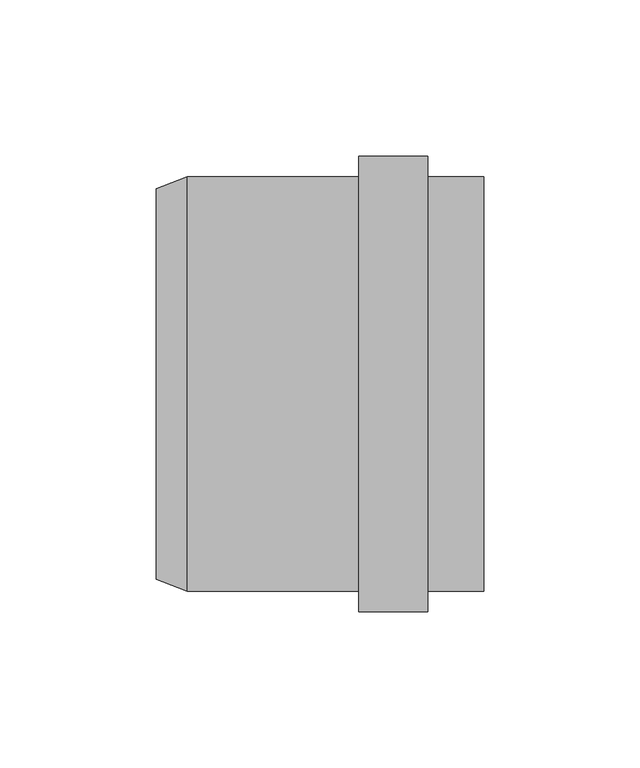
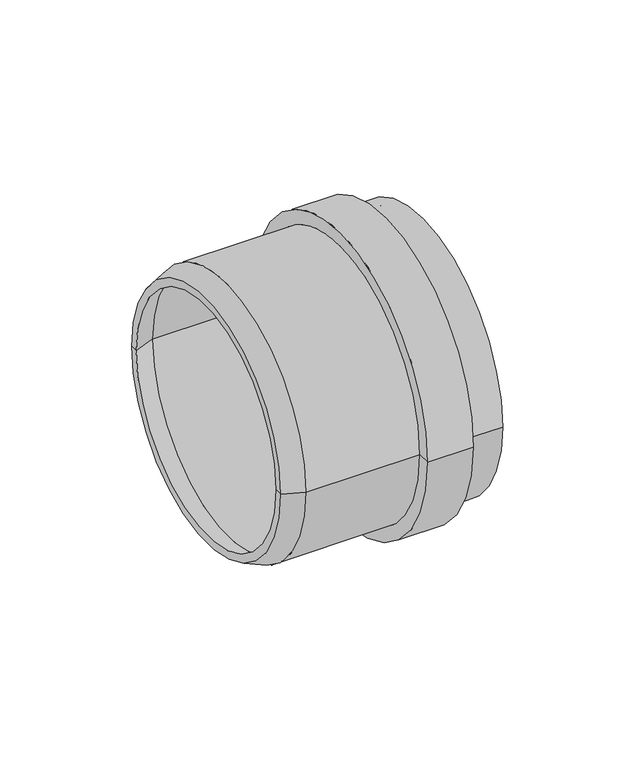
"""IFC4 building model written with IfcOpenShell, lengths in millimetres: pipe fitting geometry, OSMA_KG2000_Hrdlo : Hrdlo."""

import ifcopenshell
import ifcopenshell.guid

model = None  # the IFC model being written
_history = None  # IfcOwnerHistory: only IFC2X3 demands one
_inside = {}  # id of a spatial element -> (the spatial element, [elements in it])
_under = {}  # id of a project, library or spatial element -> (it, [spatial elements below it])
_declared = {}  # id of a project -> (the project, [libraries it declares])
_typed = {}  # id of a type object -> (the type object, [elements of that type])
_made_of = {}  # id of a material, layer set ... -> (it, [elements and type objects made of it])


def new_model(schema):
    """Start an empty IFC model of exactly this schema.

    Asked for "IFC4X3", IfcOpenShell would pick the latest addendum, in which some entities
    have other attributes; the version numbers below select the first issue.
    IFC2X3 requires an IfcOwnerHistory on every rooted entity: one is made here for all.
    """
    global model, _history
    if schema == "IFC4X3":
        model = ifcopenshell.file(schema_version=(4, 3, 0, 0))
    else:
        model = ifcopenshell.file(schema=schema)
    _inside.clear()
    _under.clear()
    _declared.clear()
    _typed.clear()
    _made_of.clear()
    _history = None
    if model.schema == "IFC2X3":
        org = make("IfcOrganization", Name="unknown")
        user = make(
            "IfcPersonAndOrganization",
            ThePerson=make("IfcPerson", FamilyName="unknown"),
            TheOrganization=org,
        )
        app = make(
            "IfcApplication",
            ApplicationDeveloper=org,
            Version="unknown",
            ApplicationFullName="unknown",
            ApplicationIdentifier="unknown",
        )
        _history = make(
            "IfcOwnerHistory",
            OwningUser=user,
            OwningApplication=app,
            ChangeAction="ADDED",
            CreationDate=0,
        )
    return model


def make(cls, **values):
    """One entity of the class cls with the attributes given. An attribute that is None is left unset."""
    return model.create_entity(
        cls, **{name: value for name, value in values.items() if value is not None}
    )


def rooted(cls, **values):
    """An entity with a GlobalId (a new one), such as an element, a storey or a relation."""
    return make(cls, GlobalId=ifcopenshell.guid.new(), OwnerHistory=_history, **values)


def si_unit(unit_type, name, prefix=None):
    """IfcSIUnit, for example si_unit("LENGTHUNIT", "METRE", prefix="MILLI")."""
    return make("IfcSIUnit", UnitType=unit_type, Prefix=prefix, Name=name)


def assignment(units):
    """IfcUnitAssignment: the units of a project."""
    return None if units is None else make("IfcUnitAssignment", Units=units)


def point(xyz):
    """IfcCartesianPoint."""
    return None if xyz is None else make("IfcCartesianPoint", Coordinates=xyz)


def direction(xyz):
    """IfcDirection."""
    return None if xyz is None else make("IfcDirection", DirectionRatios=xyz)


def frame(location, z_axis=None, x_axis=None):
    """IfcAxis2Placement3D, a coordinate frame: its origin and axes. An axis left out is left unset."""
    return make(
        "IfcAxis2Placement3D",
        Location=point(location),
        Axis=direction(z_axis),
        RefDirection=direction(x_axis),
    )


def origin():
    """The frame at (0, 0, 0) with its axes left unset."""
    return frame((0.0, 0.0, 0.0))


def place(relative_to, where):
    """IfcLocalPlacement: puts the frame where relative to a parent placement (None: the world)."""
    return make(
        "IfcLocalPlacement", PlacementRelTo=relative_to, RelativePlacement=where
    )


def context(
    kind, dimensions, precision=None, world=None, true_north=None, identifier=None
):
    """IfcGeometricRepresentationContext, for example the 3D "Model" context."""
    return make(
        "IfcGeometricRepresentationContext",
        ContextIdentifier=identifier,
        ContextType=kind,
        CoordinateSpaceDimension=dimensions,
        Precision=precision,
        WorldCoordinateSystem=world,
        TrueNorth=true_north,
    )


def project(units=None, contexts=None):
    """IfcProject with its units and contexts."""
    return rooted(
        "IfcProject",
        Name="project",
        RepresentationContexts=contexts,
        UnitsInContext=assignment(units),
    )


def spatial(cls, under=None, at=None, **own):
    """A site, building, storey or space (cls), placed at a placement, below another one or the project."""
    s = rooted(cls, ObjectPlacement=at, **own)
    if under is not None:
        _under.setdefault(under.id(), (under, []))[1].append(s)
    return s


def polyline(points):
    """IfcPolyline through the points."""
    return make("IfcPolyline", Points=[point(p) for p in points])


def circle_curve(where, radius):
    """IfcCircle in the frame where."""
    return make("IfcCircle", Position=where, Radius=radius)


def shape(context_of_items, identifier, shape_type, items):
    """IfcShapeRepresentation: the items that make up one representation, for example the "Body"."""
    return make(
        "IfcShapeRepresentation",
        ContextOfItems=context_of_items,
        RepresentationIdentifier=identifier,
        RepresentationType=shape_type,
        Items=items,
    )


def source(mapping_origin, context_of_items, identifier, shape_type, items):
    """IfcRepresentationMap: a shape defined once, which mapped items show again and again."""
    return make(
        "IfcRepresentationMap",
        MappingOrigin=mapping_origin,
        MappedRepresentation=shape(context_of_items, identifier, shape_type, items),
    )


def transform(
    local_origin,
    x_axis=None,
    y_axis=None,
    z_axis=None,
    scale=None,
    scale2=None,
    scale3=None,
    uniform=True,
):
    """IfcCartesianTransformationOperator3D, or its non-uniform kind. x_axis, y_axis, z_axis: its Axis1, 2, 3."""
    if uniform:
        return make(
            "IfcCartesianTransformationOperator3D",
            Axis1=direction(x_axis),
            Axis2=direction(y_axis),
            LocalOrigin=point(local_origin),
            Scale=scale,
            Axis3=direction(z_axis),
        )
    return make(
        "IfcCartesianTransformationOperator3DnonUniform",
        Axis1=direction(x_axis),
        Axis2=direction(y_axis),
        LocalOrigin=point(local_origin),
        Scale=scale,
        Axis3=direction(z_axis),
        Scale2=scale2,
        Scale3=scale3,
    )


def mapped(mapping_source, mapping_target):
    """IfcMappedItem: shows the shape of a source again, moved by a transform."""
    return make(
        "IfcMappedItem", MappingSource=mapping_source, MappingTarget=mapping_target
    )


def made_of(thing, what):
    """Note that an element or type object is made of a material, layer set ...; save() writes the relation."""
    if what is not None:
        _made_of.setdefault(what.id(), (what, []))[1].append(thing)
    return thing


def element(
    cls,
    number,
    at=None,
    inside=None,
    cuts=None,
    type_object=None,
    material=None,
    context=None,
    identifier="Body",
    shape_type=None,
    held_by="IfcProductDefinitionShape",
    body=None,
    shapes=None,
    **own,
):
    """One element of the class cls, such as IfcWall. Its Tag is "e" and its number.

    at: its placement. inside: the storey or other place that contains it. cuts: it is an
    opening in that element (IfcRelVoidsElement). A single representation is given by context,
    identifier, shape_type and body (its items); several are given by shapes. held_by: the class
    of the entity that holds the representations. save() writes the other relations.
    """
    e = rooted(cls, Tag="e%d" % number, ObjectPlacement=at, **own)
    if body is not None:
        shapes = [shape(context, identifier, shape_type, body)]
    if shapes is not None:
        e.Representation = make(held_by, Representations=shapes)
    if inside is not None:
        _inside.setdefault(inside.id(), (inside, []))[1].append(e)
    if cuts is not None:
        rooted(
            "IfcRelVoidsElement", RelatingBuildingElement=cuts, RelatedOpeningElement=e
        )
    if type_object is not None:
        _typed.setdefault(type_object.id(), (type_object, []))[1].append(e)
    return made_of(e, material)


def aggregate(whole, parts):
    """IfcRelAggregates: a whole, such as a stair, and the parts it consists of."""
    return rooted("IfcRelAggregates", RelatingObject=whole, RelatedObjects=parts)


def save(model, path):
    """Write the relations noted so far, then the file.

    IfcRelAggregates (storeys below a building ...), IfcRelContainedInSpatialStructure (elements
    in a storey), IfcRelDefinesByType, IfcRelAssociatesMaterial and IfcRelDeclares: one each for
    every whole, place, type object, material and project.
    """
    for whole, parts in _under.values():
        aggregate(whole, parts)
    for where, things in _inside.values():
        rooted(
            "IfcRelContainedInSpatialStructure",
            RelatedElements=things,
            RelatingStructure=where,
        )
    for kind, things in _typed.values():
        rooted("IfcRelDefinesByType", RelatedObjects=things, RelatingType=kind)
    for what, things in _made_of.values():
        rooted("IfcRelAssociatesMaterial", RelatedObjects=things, RelatingMaterial=what)
    for by, libraries in _declared.values():
        rooted("IfcRelDeclares", RelatingContext=by, RelatedDefinitions=libraries)
    model.write(path)


def plane_surface(at):
    """IfcPlane: the flat surface through the origin of the frame at, square to its z axis."""
    return make("IfcPlane", Position=at)


def cylinder_surface(at, radius):
    """IfcCylindricalSurface: all points at the distance radius from the z axis of the frame at."""
    return make("IfcCylindricalSurface", Position=at, Radius=radius)


def revolved_surface(curve, axis_point, axis_direction):
    """IfcSurfaceOfRevolution: the curve turned about the line through axis_point along axis_direction."""
    return make(
        "IfcSurfaceOfRevolution",
        SweptCurve=make("IfcArbitraryOpenProfileDef", ProfileType="CURVE", Curve=curve),
        AxisPosition=make("IfcAxis1Placement", Location=point(axis_point), Axis=direction(axis_direction)),
    )


def advanced_brep(points, edges, surfaces, faces):
    """IfcAdvancedBrep: a solid bounded by faces that lie on surfaces and meet in shared edges.

    An edge is (start, end): straight between two places in points (the first is 0);
    or (start, end, curve); or (start, end, curve, False) where it runs against its curve.
    A face is (place in surfaces, loops), or (place, loops, False) where it looks against
    its surface's normal. A loop lists edges by number (the first is 1), with a minus sign
    where the edge is run from its end to its start. The first loop is the outer one.
    """
    corners = [point(p) for p in points]
    vertices = [make("IfcVertexPoint", VertexGeometry=c) for c in corners]
    made = []
    for start, end, *more in edges:
        made.append(
            make(
                "IfcEdgeCurve",
                EdgeStart=vertices[start],
                EdgeEnd=vertices[end],
                EdgeGeometry=more[0] if more else make("IfcPolyline", Points=[corners[start], corners[end]]),
                SameSense=more[1] if len(more) > 1 else True,
            )
        )
    hull = []
    for where, loops, *sense in faces:
        bounds = []
        for j, loop in enumerate(loops):
            ring = [make("IfcOrientedEdge", EdgeElement=made[abs(k) - 1], Orientation=k > 0) for k in loop]
            bounds.append(
                make(
                    "IfcFaceOuterBound" if j == 0 else "IfcFaceBound",
                    Bound=make("IfcEdgeLoop", EdgeList=ring),
                    Orientation=True,
                )
            )
        hull.append(make("IfcAdvancedFace", Bounds=bounds, FaceSurface=surfaces[where], SameSense=sense[0] if sense else True))
    return make("IfcAdvancedBrep", Outer=make("IfcClosedShell", CfsFaces=hull))


def pipe_fitting_8769c573(model_context):
    return source(origin(), model_context, "Body", "AdvancedBrep", [
        advanced_brep(
        [(60.0, -73.0, 0.0), (60.0, 73.0, 0.0), (82.0, 73.0, 0.0), (82.0, -73.0, 0.0), (60.0, -66.4, 0.0), (60.0, 66.4, 0.0), (5.0, -66.4, 0.0), (5.0, 66.4, 0.0), (-5.0, -62.5, 0.0), (-5.0, 62.5, 0.0), (-5.0, -58.6, 0.0), (-5.0, 58.6, 0.0), (5.0, -62.5, 0.0), (5.0, 62.5, 0.0), (100.0, -62.5, 0.0), (100.0, 62.5, 0.0), (100.0, -66.4, 0.0), (100.0, 66.4, 0.0), (82.0, -66.4, 0.0), (82.0, 66.4, 0.0)],
        [
            (0, 1, circle_curve(frame((60.0, 0.0, 0.0), z_axis=(1.0, 0.0, 0.0), x_axis=(0.0, 1.0, 0.0)), 73.0)),
            (1, 2),
            (2, 3, circle_curve(frame((82.0, 0.0, 0.0), z_axis=(-1.0, 0.0, 0.0), x_axis=(0.0, 1.0, 0.0)), 73.0)),
            (3, 0),
            (1, 0, circle_curve(frame((60.0, 0.0, 0.0), z_axis=(1.0, 0.0, 0.0), x_axis=(0.0, 1.0, 0.0)), 73.0)),
            (3, 2, circle_curve(frame((82.0, 0.0, 0.0), z_axis=(-1.0, 0.0, 0.0), x_axis=(0.0, 1.0, 0.0)), 73.0)),
            (4, 5, circle_curve(frame((60.0, 0.0, 0.0), z_axis=(1.0, 0.0, 0.0), x_axis=(0.0, 1.0, 0.0)), 66.4)),
            (5, 1),
            (0, 4),
            (5, 4, circle_curve(frame((60.0, 0.0, 0.0), z_axis=(1.0, 0.0, 0.0), x_axis=(0.0, 1.0, 0.0)), 66.4)),
            (6, 7, circle_curve(frame((5.0, 0.0, 0.0), z_axis=(1.0, 0.0, 0.0), x_axis=(0.0, 1.0, 0.0)), 66.4)),
            (7, 5),
            (4, 6),
            (7, 6, circle_curve(frame((5.0, 0.0, 0.0), z_axis=(1.0, 0.0, 0.0), x_axis=(0.0, 1.0, 0.0)), 66.4)),
            (8, 9, circle_curve(frame((-5.0, 0.0, 0.0), z_axis=(1.0, 0.0, 0.0), x_axis=(0.0, 1.0, 0.0)), 62.5)),
            (9, 7),
            (6, 8),
            (9, 8, circle_curve(frame((-5.0, 0.0, 0.0), z_axis=(1.0, 0.0, 0.0), x_axis=(0.0, 1.0, 0.0)), 62.5)),
            (10, 11, circle_curve(frame((-5.0, 0.0, 0.0), z_axis=(1.0, 0.0, 0.0), x_axis=(0.0, 1.0, 0.0)), 58.6)),
            (11, 9),
            (8, 10),
            (11, 10, circle_curve(frame((-5.0, 0.0, 0.0), z_axis=(1.0, 0.0, 0.0), x_axis=(0.0, 1.0, 0.0)), 58.6)),
            (12, 13, circle_curve(frame((5.0, 0.0, 0.0), z_axis=(1.0, 0.0, 0.0), x_axis=(0.0, 1.0, 0.0)), 62.5)),
            (13, 11),
            (10, 12),
            (13, 12, circle_curve(frame((5.0, 0.0, 0.0), z_axis=(1.0, 0.0, 0.0), x_axis=(0.0, 1.0, 0.0)), 62.5)),
            (14, 15, circle_curve(frame((100.0, 0.0, 0.0), z_axis=(1.0, 0.0, 0.0), x_axis=(0.0, 1.0, 0.0)), 62.5)),
            (15, 13),
            (12, 14),
            (15, 14, circle_curve(frame((100.0, 0.0, 0.0), z_axis=(1.0, 0.0, 0.0), x_axis=(0.0, 1.0, 0.0)), 62.5)),
            (16, 17, circle_curve(frame((100.0, 0.0, 0.0), z_axis=(1.0, 0.0, 0.0), x_axis=(0.0, 1.0, 0.0)), 66.4)),
            (17, 15),
            (14, 16),
            (17, 16, circle_curve(frame((100.0, 0.0, 0.0), z_axis=(1.0, 0.0, 0.0), x_axis=(0.0, 1.0, 0.0)), 66.4)),
            (18, 19, circle_curve(frame((82.0, 0.0, 0.0), z_axis=(1.0, 0.0, 0.0), x_axis=(0.0, 1.0, 0.0)), 66.4)),
            (19, 17),
            (16, 18),
            (19, 18, circle_curve(frame((82.0, 0.0, 0.0), z_axis=(1.0, 0.0, 0.0), x_axis=(0.0, 1.0, 0.0)), 66.4)),
            (2, 19),
            (18, 3),
        ],
        [
            cylinder_surface(frame((380.497004, 0.0, 0.0), z_axis=(-1.0, 0.0, 0.0), x_axis=(0.0, 1.0, 0.0)), 73.0),
            plane_surface(frame((60.0, 0.0, 0.0), z_axis=(-1.0, 0.0, 0.0), x_axis=(0.0, 1.0, 0.0))),
            cylinder_surface(frame((380.497004, 0.0, 0.0), z_axis=(-1.0, 0.0, 0.0), x_axis=(0.0, 1.0, 0.0)), 66.4),
            revolved_surface(polyline([(5.0, 66.4, 0.0), (-5.0, 62.5, 0.0)]), (380.497004, 0.0, 0.0), (-1.0, 0.0, 0.0)),
            plane_surface(frame((-5.0, 0.0, 0.0), z_axis=(-1.0, 0.0, 0.0), x_axis=(0.0, 1.0, 0.0))),
            revolved_surface(polyline([(-5.0, 58.6, 0.0), (5.0, 62.5, 0.0)]), (380.497004, 0.0, 0.0), (-1.0, 0.0, 0.0)),
            revolved_surface(polyline([(5.0, 62.5, 0.0), (100.0, 62.5, 0.0)]), (380.497004, 0.0, 0.0), (-1.0, 0.0, 0.0)),
            plane_surface(frame((100.0, 0.0, 0.0), z_axis=(1.0, 0.0, 0.0), x_axis=(0.0, 1.0, 0.0))),
            plane_surface(frame((82.0, 0.0, 0.0), z_axis=(1.0, 0.0, 0.0), x_axis=(0.0, 1.0, 0.0))),
        ],
        [
            (0, [[1, 2, 3, 4]]),
            (0, [[5, -4, 6, -2]]),
            (1, [[7, 8, -1, 9]]),
            (1, [[10, -9, -5, -8]]),
            (2, [[11, 12, -7, 13]]),
            (2, [[14, -13, -10, -12]]),
            (3, [[15, 16, -11, 17]]),
            (3, [[18, -17, -14, -16]]),
            (4, [[19, 20, -15, 21]]),
            (4, [[22, -21, -18, -20]]),
            (5, [[23, 24, -19, 25]]),
            (5, [[26, -25, -22, -24]]),
            (6, [[27, 28, -23, 29]]),
            (6, [[30, -29, -26, -28]]),
            (7, [[31, 32, -27, 33]]),
            (7, [[34, -33, -30, -32]]),
            (2, [[35, 36, -31, 37]]),
            (2, [[38, -37, -34, -36]]),
            (8, [[-3, 39, -35, 40]]),
            (8, [[-6, -40, -38, -39]]),
        ],
    ),
    ])


if __name__ == "__main__":
    model = new_model("IFC4")
    model_context = context("Model", 3, world=origin())
    ifc_project = project(units=[si_unit("LENGTHUNIT", "METRE", prefix="MILLI")], contexts=[model_context])
    site = spatial("IfcSite", under=ifc_project)
    building = spatial("IfcBuilding", under=site)
    placement = place(None, origin())
    pipe_fitting_shape = pipe_fitting_8769c573(model_context)
    element("IfcPipeFitting", 1, ObjectType="OSMA_KG2000_Hrdlo : Hrdlo", at=placement, inside=building, context=model_context, shape_type="MappedRepresentation", body=[
        mapped(pipe_fitting_shape, transform((0.0, 0.0, 0.0), x_axis=(1.0, 0.0, 0.0), y_axis=(0.0, 1.0, 0.0), z_axis=(0.0, 0.0, 1.0))),
    ])
    save(model, "model.ifc")
